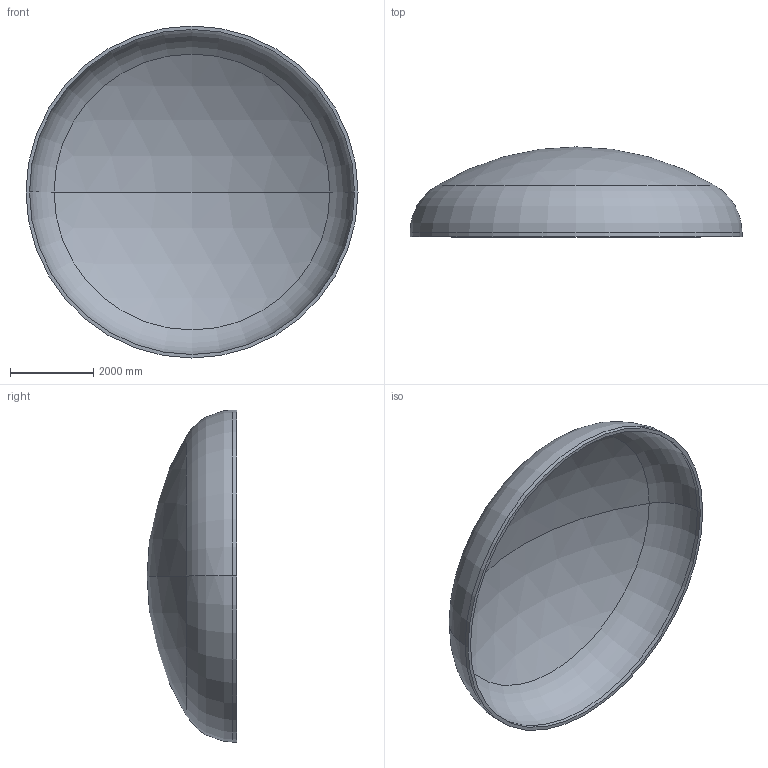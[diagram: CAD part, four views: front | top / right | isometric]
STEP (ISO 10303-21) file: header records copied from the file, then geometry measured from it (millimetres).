
FILE_DESCRIPTION (( 'STEP AP203' ), '1' );
FILE_NAME ('DIN 28013 Korbbogenform_-_Boden DIN 28013 - 8000 x 100 - I - s=84.step', '2016-07-04T11:04:14', ( '' ), ( '' ), 'SwSTEP 2.0', 'SolidWorks 2013', '' );
FILE_SCHEMA (( 'CONFIG_CONTROL_DESIGN' ));
Length unit declared in the file: millimetre
Products named in the file (1): DIN 28013 Korbbogenform_-_Boden DIN 28013 - 8000 x 100 - I - s=84
Bounding box: 8000 x 2166.5 x 8000 mm (x, y, z)
Volume: 5974245632.6 mm3; surface area: 144347649.5 mm2
Topology: 1 solids, 1 shells, 13 faces, 24 edges, 14 vertices
Faces by surface type: torus 4, cylinder 4, sphere 4, plane 1
Entity records: 407 total; most frequent: DIRECTION 72, CARTESIAN_POINT 52, ORIENTED_EDGE 48, AXIS2_PLACEMENT_3D 34, EDGE_CURVE 24, CIRCLE 20, VERTEX_POINT 14, EDGE_LOOP 14
